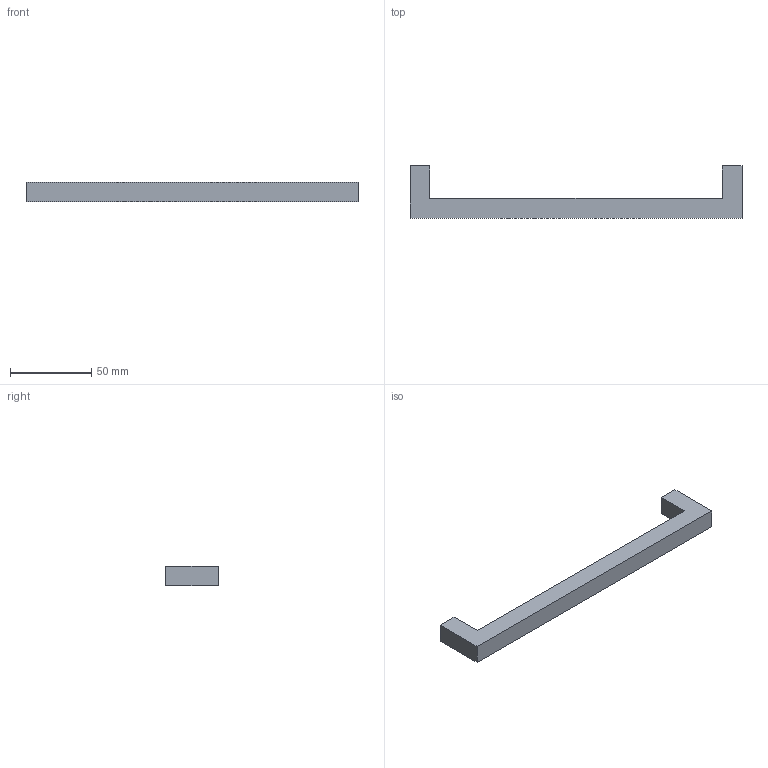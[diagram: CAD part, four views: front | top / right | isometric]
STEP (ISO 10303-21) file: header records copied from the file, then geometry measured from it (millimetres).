
FILE_DESCRIPTION( ( 'STEP AP214' ), '1' );
FILE_NAME( 'C:/Users/kulkarni/Desktop/Apurva/2015/Prodecor_2016/Cadfiles/same as files/Anzio/9207356.stp', ' ', ( ' ' ), ( ' ' ), 'PSStep 15.0.47', 'PARTsolutions', ' ' );
FILE_SCHEMA( ( 'AUTOMOTIVE_DESIGN { 1 0 10303 214 1 1 1 1 }' ) );
Length unit declared in the file: millimetre
Products named in the file (1): _9207356
Bounding box: 204 x 32 x 12 mm (x, y, z)
Volume: 34884.7 mm3; surface area: 12251.3 mm2
Topology: 1 solids, 1 shells, 14 faces, 30 edges, 20 vertices
Faces by surface type: plane 12, cylinder 2
Full cylindrical faces by diameter (mm): 4 x2
Entity records: 496 total; most frequent: CARTESIAN_POINT 63, DIRECTION 62, ORIENTED_EDGE 56, EDGE_CURVE 28, LINE 24, VECTOR 24, VERTEX_POINT 20, AXIS2_PLACEMENT_3D 19
